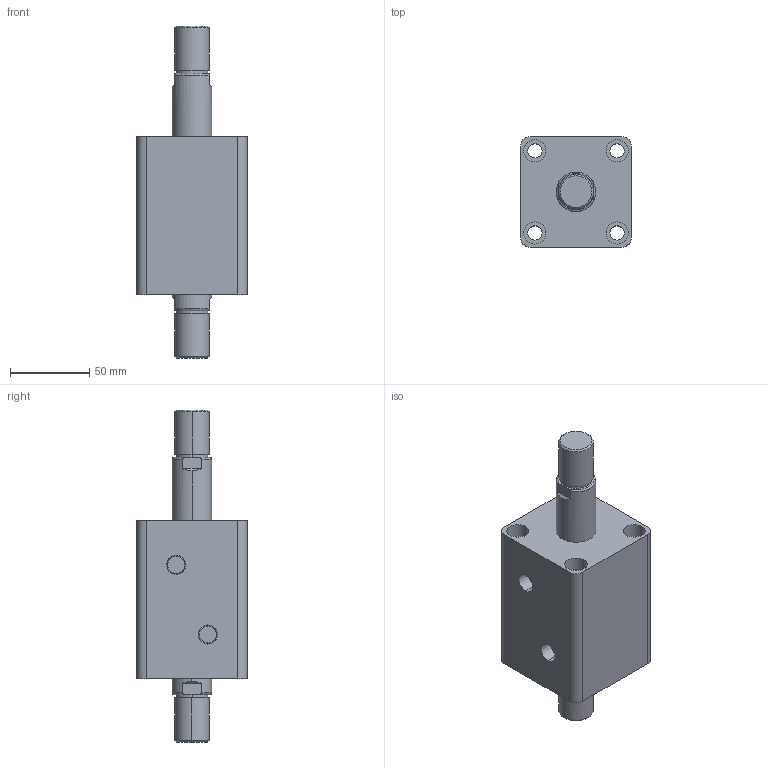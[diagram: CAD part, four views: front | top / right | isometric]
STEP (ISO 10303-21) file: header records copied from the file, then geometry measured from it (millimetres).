
FILE_DESCRIPTION (( 'STEP AP203' ), '1' );
FILE_NAME ('HTB-SW40-30W.STEP', '2019-10-07T09:06:55', ( '微软用户' ), ( '微软中国' ), 'SwSTEP 2.0', 'SolidWorks 2012', '' );
FILE_SCHEMA (( 'CONFIG_CONTROL_DESIGN' ));
Length unit declared in the file: millimetre
Products named in the file (3): HTB-SW40-30W; HTB-SW40-30W活塞杆; HTB-SW40-30掛极
Assembly tree (2 placements, depth 2):
  HTB-SW40-30W
    HTB-SW40-30掛极
    HTB-SW40-30W活塞杆
Bounding box: 70 x 70 x 210 mm (x, y, z)
Volume: 476579.8 mm3; surface area: 79127.5 mm2
Topology: 2 solids, 2 shells, 108 faces, 240 edges, 156 vertices
Faces by surface type: cylinder 52, plane 36, torus 12, cone 8
Entity records: 3449 total; most frequent: CARTESIAN_POINT 629, DIRECTION 586, ORIENTED_EDGE 480, AXIS2_PLACEMENT_3D 249, EDGE_CURVE 240, VERTEX_POINT 156, EDGE_LOOP 138, CIRCLE 136
